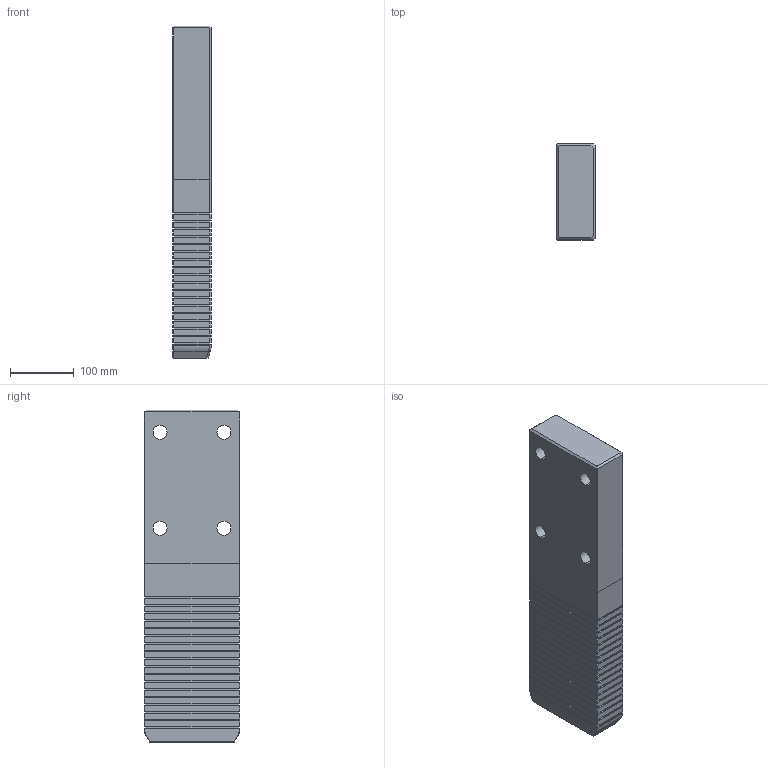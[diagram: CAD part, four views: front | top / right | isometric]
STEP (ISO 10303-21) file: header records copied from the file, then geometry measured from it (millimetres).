
FILE_DESCRIPTION((''),'2;1');
FILE_NAME('','2010-09-22T13:25:02+09:00',('misumi'),(''),'M/STEP i/f 1R2-14','CADmeister v5.1','');
FILE_SCHEMA(('AUTOMOTIVE_DESIGN'));
Length unit declared in the file: millimetre
Products named in the file (1): GWAZ150-520
Bounding box: 60 x 150 x 520 mm (x, y, z)
Volume: 4532670.9 mm3; surface area: 267815.6 mm2
Topology: 1 solids, 1 shells, 380 faces, 1003 edges, 662 vertices
Faces by surface type: plane 359, cylinder 13, bspline 6, cone 2
Entity records: 11884 total; most frequent: CARTESIAN_POINT 2386, ORIENTED_EDGE 2002, DIRECTION 1761, EDGE_CURVE 1001, LINE 959, VECTOR 959, VERTEX_POINT 660, EDGE_LOOP 425
